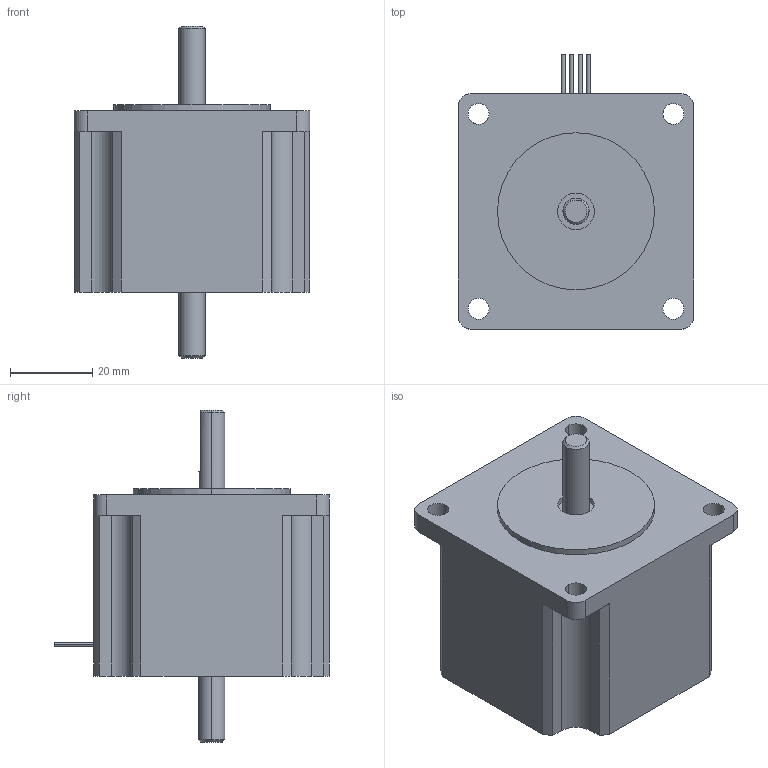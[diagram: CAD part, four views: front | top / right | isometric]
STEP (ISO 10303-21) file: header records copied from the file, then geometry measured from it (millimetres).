
FILE_DESCRIPTION((''),'2;1');
FILE_NAME('C:\Documents and Settings\rbadgerow\Desktop\webmodelmain\web step 3d\5718x\5718x d.stp','2005-05-23T09:15:42',('rbadgerow'),(''),'Autodesk Inventor 9','Autodesk Inventor 9','');
FILE_SCHEMA(('AUTOMOTIVE_DESIGN { 1 0 10303 214 1 1 1 1 }'));
Length unit declared in the file: inch
Products named in the file (1): 5718x d
Bounding box: 57.15 x 66.67 x 80.52 mm (x, y, z)
Volume: 132773.5 mm3; surface area: 17187.5 mm2
Topology: 2 solids, 2 shells, 77 faces, 192 edges, 127 vertices
Faces by surface type: cylinder 42, plane 30, cone 5
Entity records: 2373 total; most frequent: DIRECTION 439, CARTESIAN_POINT 401, ORIENTED_EDGE 384, EDGE_CURVE 192, AXIS2_PLACEMENT_3D 171, VERTEX_POINT 127, VECTOR 97, LINE 97
